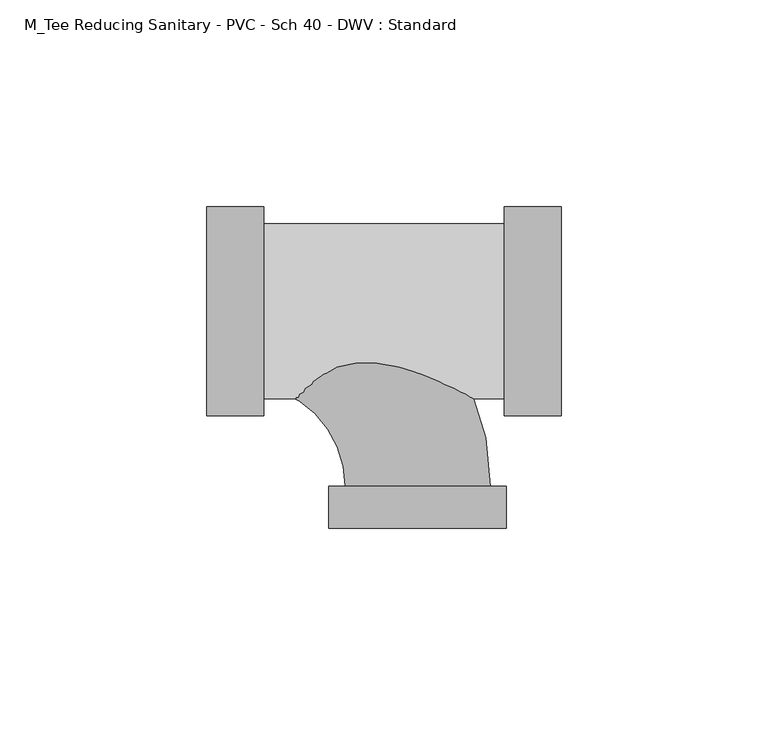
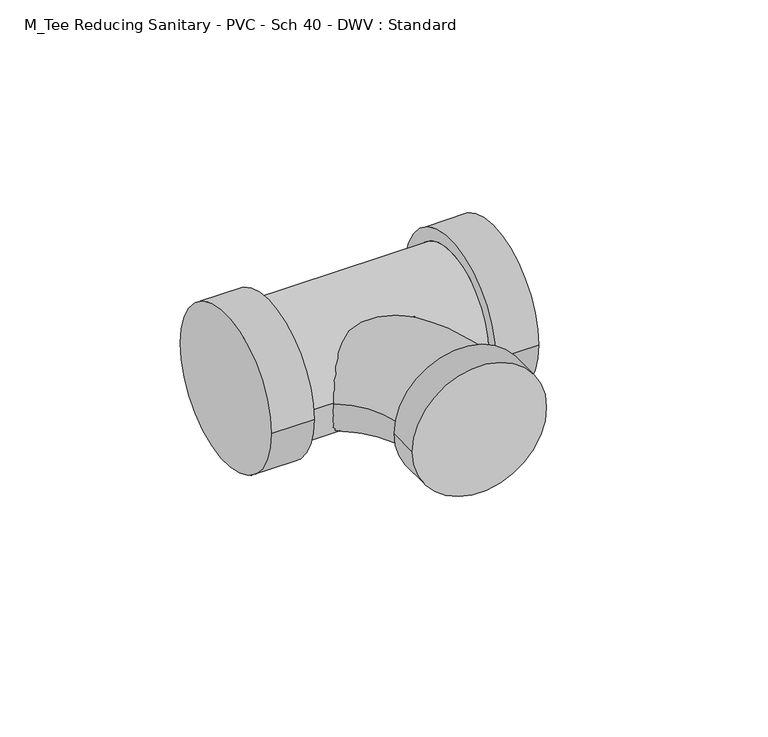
"""IFC4 building model written with IfcOpenShell, lengths in millimetres: pipe fitting geometry, M_Tee Reducing Sanitary - PVC - Sch 40 - DWV : Standard."""

from ifc_helpers import new_model, si_unit, point, frame, origin, place, context, project, spatial, circle_curve, ellipse_curve, trimmed, source, transform, mapped, element, save
from ifc_brep_helpers import plane_surface, cylinder_surface, revolved_surface, advanced_brep


def m_tee_reducing_sanitary_pvc_sch_40_dwv_standard_12be355b(model_context):
    return source(origin(), model_context, "Body", "AdvancedBrep", [
        advanced_brep(
        [(21.000205, -25.2671094, 0.0), (21.000205, 25.2671094, 0.0), (21.000205, -21.2040625, 0.0), (21.000205, 21.2040625, 0.0), (34.7405175, -25.2671094, 0.0), (34.7405175, 25.2671094, 0.0), (-37.2738262, 21.2040625, 0.0), (-37.2738262, -21.2040625, 0.0), (-51.0141387, -25.2671094, 0.0), (-51.0141387, 25.2671094, 0.0), (-37.2738262, -25.2671094, 0.0), (-37.2738262, 25.2671094, 0.0)],
        [
            (0, 1, circle_curve(frame((21.000205, 0.0, 0.0), z_axis=(-1.0, 0.0, 0.0), x_axis=(0.0, 1.0, 0.0)), 25.2671094)),
            (1, 0, circle_curve(frame((21.000205, 0.0, 0.0), z_axis=(-1.0, 0.0, 0.0), x_axis=(0.0, 1.0, 0.0)), 25.2671094)),
            (2, 3, circle_curve(frame((21.000205, 0.0, 0.0), z_axis=(1.0, 0.0, 0.0), x_axis=(0.0, 0.0, -1.0)), 21.2040625)),
            (3, 2, circle_curve(frame((21.000205, 0.0, 0.0), z_axis=(1.0, 0.0, 0.0), x_axis=(0.0, 0.0, 1.0)), 21.2040625)),
            (4, 5, circle_curve(frame((34.7405175, 0.0, 0.0), z_axis=(1.0, 0.0, 0.0), x_axis=(0.0, 1.0, 0.0)), 25.2671094)),
            (5, 4, circle_curve(frame((34.7405175, 0.0, 0.0), z_axis=(1.0, 0.0, 0.0), x_axis=(0.0, 1.0, 0.0)), 25.2671094)),
            (0, 4),
            (5, 1),
            (6, 3),
            (2, 7),
            (7, 6, circle_curve(frame((-37.2738262, 0.0, 0.0), z_axis=(1.0, 0.0, 0.0), x_axis=(0.0, 0.0, -1.0)), 21.2040625)),
            (6, 7, circle_curve(frame((-37.2738262, 0.0, 0.0), z_axis=(1.0, 0.0, 0.0), x_axis=(0.0, 0.0, 1.0)), 21.2040625)),
            (8, 9, circle_curve(frame((-51.0141387, 0.0, 0.0), z_axis=(-1.0, 0.0, 0.0), x_axis=(0.0, 1.0, 0.0)), 25.2671094)),
            (9, 8, circle_curve(frame((-51.0141387, 0.0, 0.0), z_axis=(-1.0, 0.0, 0.0), x_axis=(0.0, 1.0, 0.0)), 25.2671094)),
            (10, 11, circle_curve(frame((-37.2738262, 0.0, 0.0), z_axis=(1.0, 0.0, 0.0), x_axis=(0.0, 1.0, 0.0)), 25.2671094)),
            (11, 10, circle_curve(frame((-37.2738262, 0.0, 0.0), z_axis=(1.0, 0.0, 0.0), x_axis=(0.0, 1.0, 0.0)), 25.2671094)),
            (8, 10),
            (11, 9),
        ],
        [
            plane_surface(frame((21.000205, 0.0, 0.0), z_axis=(-1.0, 0.0, 0.0), x_axis=(0.0, 0.0, 1.0))),
            plane_surface(frame((34.7405175, 0.0, 0.0), z_axis=(1.0, 0.0, 0.0), x_axis=(0.0, 0.0, 1.0))),
            cylinder_surface(frame((21.000205, 0.0, 0.0), z_axis=(-1.0, 0.0, 0.0), x_axis=(0.0, 1.0, 0.0)), 25.2671094),
            cylinder_surface(frame((-37.2738262, 0.0, 0.0), z_axis=(1.0, 0.0, 0.0), x_axis=(0.0, 0.0, -1.0)), 21.2040625),
            cylinder_surface(frame((-37.2738262, 0.0, 0.0), z_axis=(1.0, 0.0, 0.0), x_axis=(0.0, 0.0, 1.0)), 21.2040625),
            plane_surface(frame((-51.0141387, 0.0, 0.0), z_axis=(-1.0, 0.0, 0.0), x_axis=(0.0, 0.0, 1.0))),
            plane_surface(frame((-37.2738262, 0.0, 0.0), z_axis=(1.0, 0.0, 0.0), x_axis=(0.0, 0.0, 1.0))),
            cylinder_surface(frame((-51.0141387, 0.0, 0.0), z_axis=(-1.0, 0.0, 0.0), x_axis=(0.0, 1.0, 0.0)), 25.2671094),
        ],
        [
            (0, [[1, 2], [3, 4]]),
            (1, [[5, 6]]),
            (2, [[-1, 7, -6, 8]]),
            (2, [[-2, -8, -5, -7]]),
            (3, [[9, -3, 10, 11]]),
            (4, [[-9, 12, -10, -4]]),
            (5, [[13, 14]]),
            (6, [[15, 16], [-11, -12]]),
            (7, [[-13, 17, -16, 18]]),
            (7, [[-14, -18, -15, -17]]),
        ],
    ),
        advanced_brep(
        [(-21.4871094, -42.3076563, 0.0), (21.4871094, -42.3076563, 0.0), (17.5640625, -42.3076563, 0.0), (-17.5640625, -42.3076563, 0.0), (-21.4871094, -52.4779688, 0.0), (21.4871094, -52.4779688, 0.0), (-42.3076562, -17.5640625, 0.0), (-42.3076562, 17.5640625, 0.0)],
        [
            (0, 1, circle_curve(frame((0.0, -42.3076563, 0.0), z_axis=(0.0, 1.0, 0.0), x_axis=(1.0, 0.0, 0.0)), 21.4871094)),
            (1, 0, circle_curve(frame((0.0, -42.3076563, 0.0), z_axis=(0.0, 1.0, 0.0), x_axis=(1.0, 0.0, 0.0)), 21.4871094)),
            (2, 3, circle_curve(frame((0.0, -42.3076563, 0.0), z_axis=(0.0, -1.0, 0.0), x_axis=(1.0, 0.0, 0.0)), 17.5640625)),
            (3, 2, circle_curve(frame((0.0, -42.3076563, 0.0), z_axis=(0.0, -1.0, 0.0), x_axis=(1.0, 0.0, 0.0)), 17.5640625)),
            (4, 5, circle_curve(frame((0.0, -52.4779688, 0.0), z_axis=(0.0, -1.0, 0.0), x_axis=(1.0, 0.0, 0.0)), 21.4871094)),
            (5, 4, circle_curve(frame((0.0, -52.4779688, 0.0), z_axis=(0.0, -1.0, 0.0), x_axis=(1.0, 0.0, 0.0)), 21.4871094)),
            (0, 4),
            (5, 1),
            (6, 7, circle_curve(frame((-42.3076562, 0.0, 0.0), z_axis=(-1.0, 0.0, 0.0), x_axis=(0.0, 1.0, 0.0)), 17.5640625)),
            (7, 6, circle_curve(frame((-42.3076562, 0.0, 0.0), z_axis=(-1.0, 0.0, 0.0), x_axis=(0.0, 1.0, 0.0)), 17.5640625)),
            (6, 3, circle_curve(frame((-42.3076562, -42.3076563, 0.0), z_axis=(0.0, 0.0, -1.0), x_axis=(0.0, 1.0, 0.0)), 24.7435938)),
            (2, 7, circle_curve(frame((-42.3076562, -42.3076563, 0.0), z_axis=(0.0, 0.0, 1.0), x_axis=(0.0, 1.0, 0.0)), 59.8717188)),
        ],
        [
            plane_surface(frame((0.0, -42.3076563, 0.0), z_axis=(0.0, 1.0, 0.0), x_axis=(0.0, 0.0, 1.0))),
            plane_surface(frame((0.0, -52.4779688, 0.0), z_axis=(0.0, -1.0, 0.0), x_axis=(0.0, 0.0, 1.0))),
            cylinder_surface(frame((0.0, -42.3076563, 0.0), z_axis=(0.0, 1.0, 0.0), x_axis=(1.0, 0.0, 0.0)), 21.4871094),
            plane_surface(frame((-42.3076562, 0.0, 0.0), z_axis=(-1.0, 0.0, 0.0), x_axis=(0.0, 0.0, 1.0))),
            revolved_surface(trimmed(ellipse_curve(frame((-42.3076562, 0.0, 0.0), z_axis=(-1.0, 0.0, 0.0), x_axis=(0.0, 1.0, 0.0)), 17.5640625, 17.5640625), [point((-42.3076562, -17.5640625, 0.0))], [point((-42.3076562, 17.5640625, 0.0))], True, "CARTESIAN"), (-42.3076562, -42.3076563, 0.0), (0.0, 0.0, -1.0)),
            revolved_surface(trimmed(ellipse_curve(frame((-42.3076562, 0.0, 0.0), z_axis=(-1.0, 0.0, 0.0), x_axis=(0.0, 1.0, 0.0)), 17.5640625, 17.5640625), [point((-42.3076562, 17.5640625, 0.0))], [point((-42.3076562, -17.5640625, 0.0))], True, "CARTESIAN"), (-42.3076562, -42.3076563, 0.0), (0.0, 0.0, -1.0)),
        ],
        [
            (0, [[1, 2], [3, 4]]),
            (1, [[5, 6]]),
            (2, [[-1, 7, -6, 8]]),
            (2, [[-2, -8, -5, -7]]),
            (3, [[9, 10]]),
            (4, [[-9, 11, -3, 12]]),
            (5, [[-10, -12, -4, -11]]),
        ],
    ),
    ])


if __name__ == "__main__":
    model = new_model("IFC4")
    model_context = context("Model", 3, world=origin())
    ifc_project = project(units=[si_unit("LENGTHUNIT", "METRE", prefix="MILLI")], contexts=[model_context])
    site = spatial("IfcSite", under=ifc_project)
    building = spatial("IfcBuilding", under=site)
    placement = place(None, origin())
    m_tee_reducing_sanitary_pvc_sch_40_dwv_standard_shape = m_tee_reducing_sanitary_pvc_sch_40_dwv_standard_12be355b(model_context)
    element("IfcPipeFitting", 1, ObjectType="M_Tee Reducing Sanitary - PVC - Sch 40 - DWV : Standard", at=placement, inside=building, context=model_context, shape_type="MappedRepresentation", body=[
        mapped(m_tee_reducing_sanitary_pvc_sch_40_dwv_standard_shape, transform((0.0, 0.0, 0.0), x_axis=(1.0, 0.0, 0.0), y_axis=(0.0, 1.0, 0.0), z_axis=(0.0, 0.0, 1.0))),
    ])
    save(model, "model.ifc")
